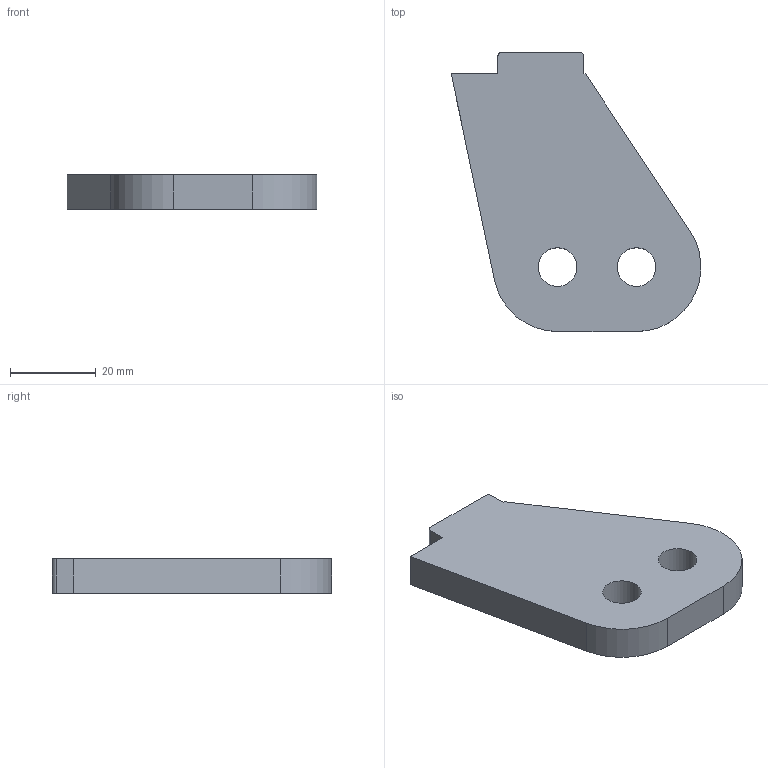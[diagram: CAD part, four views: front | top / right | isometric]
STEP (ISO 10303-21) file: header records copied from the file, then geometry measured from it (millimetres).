
FILE_DESCRIPTION(/* description */ (''),/* implementation_level */ '2;1');
FILE_NAME(/* name */ 'Pos159-Plaatwerk D= 8-S235JRG2-3st',/* time_stamp */ '2024-08-06T13:37:45+02:00',/* author */ (''),/* organization */ (''),/* preprocessor_version */ 'ST-DEVELOPER v16.5',/* originating_system */ 'HiCAD 2024 2901.2 Build 361',/* authorisation */ '');
FILE_SCHEMA (('AUTOMOTIVE_DESIGN { 1 0 10303 214 1 1 1 1 }'));
Length unit declared in the file: millimetre
Products named in the file (1): Pos159-Plaatwerk D= 8-S235JRG2-3st
Bounding box: 58.11 x 65 x 8 mm (x, y, z)
Volume: 19685.8 mm3; surface area: 7012.3 mm2
Topology: 1 solids, 1 shells, 16 faces, 44 edges, 30 vertices
Faces by surface type: plane 10, cylinder 6
Full cylindrical faces by diameter (mm): 9 x2
Entity records: 914 total; most frequent: DIRECTION 84, CARTESIAN_POINT 84, PRESENTATION_STYLE_ASSIGNMENT 81, COLOUR_RGB 81, DRAUGHTING_PRE_DEFINED_CURVE_FONT 80, CURVE_STYLE 80, OVER_RIDING_STYLED_ITEM 80, ORIENTED_EDGE 80
